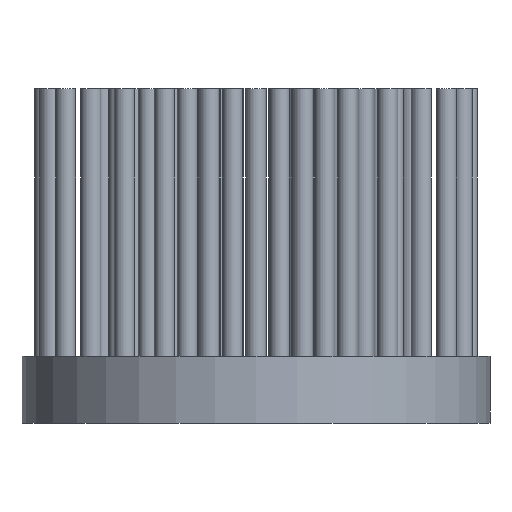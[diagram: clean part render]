
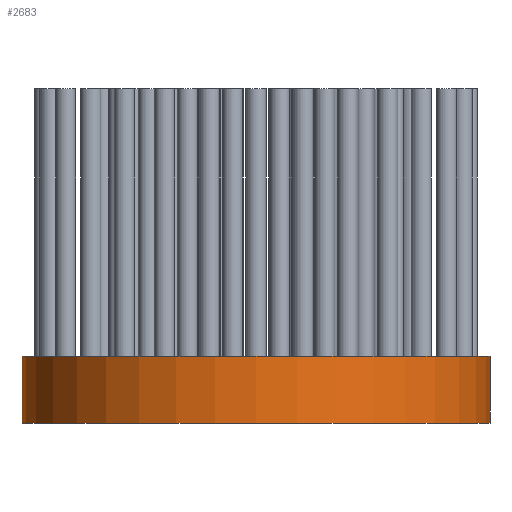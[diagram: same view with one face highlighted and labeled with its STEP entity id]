
A CAD part, front view. The second image highlights one B-rep face of the part: STEP entity #2683.
In plain terms, the highlighted cylindrical face has radius 35 mm (diameter 70 mm), a partial arc.
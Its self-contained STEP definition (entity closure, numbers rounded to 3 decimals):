
#78 = ORIENTED_EDGE ( 'NONE', *, *, #5783, .F. ) ;
#212 = DIRECTION ( 'NONE',  ( 0., 0., -1. ) ) ;
#215 = ORIENTED_EDGE ( 'NONE', *, *, #3519, .T. ) ;
#225 = AXIS2_PLACEMENT_3D ( 'NONE', #2255, #5431, #2831 ) ;
#238 = CIRCLE ( 'NONE', #5066, 35. ) ;
#256 = CARTESIAN_POINT ( 'NONE',  ( -35., 0., -10. ) ) ;
#363 = ORIENTED_EDGE ( 'NONE', *, *, #4952, .F. ) ;
#711 = CARTESIAN_POINT ( 'NONE',  ( 35., 0., -10. ) ) ;
#767 = CARTESIAN_POINT ( 'NONE',  ( -35., 0., 60. ) ) ;
#841 = CARTESIAN_POINT ( 'NONE',  ( 0., 0., 0. ) ) ;
#1200 = DIRECTION ( 'NONE',  ( 0., 0., -1. ) ) ;
#1273 = DIRECTION ( 'NONE',  ( 1., 0., 0. ) ) ;
#1742 = CARTESIAN_POINT ( 'NONE',  ( -35., 0., 0. ) ) ;
#1785 = AXIS2_PLACEMENT_3D ( 'NONE', #3451, #212, #2480 ) ;
#1877 = VECTOR ( 'NONE', #1200, 1000. ) ;
#2160 = CIRCLE ( 'NONE', #225, 35. ) ;
#2255 = CARTESIAN_POINT ( 'NONE',  ( 0., 0., -10. ) ) ;
#2480 = DIRECTION ( 'NONE',  ( -1., 0., 0. ) ) ;
#2522 = VECTOR ( 'NONE', #4746, 1000. ) ;
#2683 = ADVANCED_FACE ( 'NONE', ( #3361 ), #5385, .T. ) ;
#2831 = DIRECTION ( 'NONE',  ( -1., 0., 0. ) ) ;
#3232 = LINE ( 'NONE', #767, #1877 ) ;
#3361 = FACE_OUTER_BOUND ( 'NONE', #4019, .T. ) ;
#3451 = CARTESIAN_POINT ( 'NONE',  ( 0., 0., 60. ) ) ;
#3519 = EDGE_CURVE ( 'NONE', #4238, #5428, #3232, .T. ) ;
#3774 = LINE ( 'NONE', #4335, #2522 ) ;
#4019 = EDGE_LOOP ( 'NONE', ( #5201, #78, #215, #363 ) ) ;
#4069 = EDGE_CURVE ( 'NONE', #5684, #4683, #3774, .T. ) ;
#4095 = DIRECTION ( 'NONE',  ( 0., 0., 1. ) ) ;
#4238 = VERTEX_POINT ( 'NONE', #1742 ) ;
#4335 = CARTESIAN_POINT ( 'NONE',  ( 35., 0., 60. ) ) ;
#4683 = VERTEX_POINT ( 'NONE', #711 ) ;
#4746 = DIRECTION ( 'NONE',  ( 0., 0., -1. ) ) ;
#4872 = CARTESIAN_POINT ( 'NONE',  ( 35., 0., 0. ) ) ;
#4952 = EDGE_CURVE ( 'NONE', #4683, #5428, #2160, .T. ) ;
#5066 = AXIS2_PLACEMENT_3D ( 'NONE', #841, #4095, #1273 ) ;
#5201 = ORIENTED_EDGE ( 'NONE', *, *, #4069, .F. ) ;
#5385 = CYLINDRICAL_SURFACE ( 'NONE', #1785, 35. ) ;
#5428 = VERTEX_POINT ( 'NONE', #256 ) ;
#5431 = DIRECTION ( 'NONE',  ( 0., 0., -1. ) ) ;
#5684 = VERTEX_POINT ( 'NONE', #4872 ) ;
#5783 = EDGE_CURVE ( 'NONE', #4238, #5684, #238, .T. ) ;
